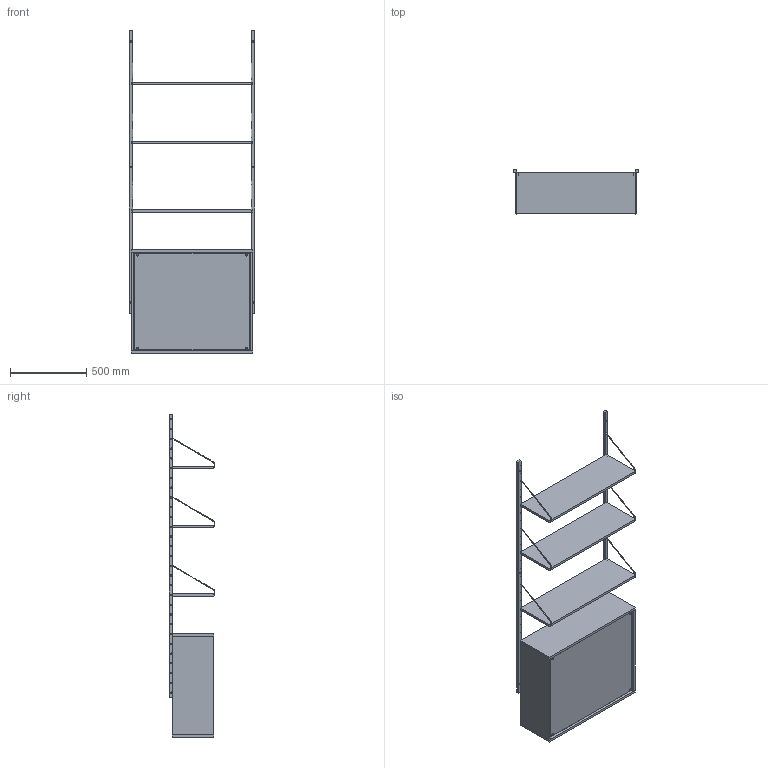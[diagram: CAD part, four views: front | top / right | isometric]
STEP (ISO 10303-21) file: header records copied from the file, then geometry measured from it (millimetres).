
FILE_DESCRIPTION(/* description */ (''),/* implementation_level */ '2;1');
FILE_NAME(/* name */ 'FRAMA_Shelf-Library-Wood-Canvas+3Shelves-3D',/* time_stamp */ '2025-11-03T10:05:11+01:00',/* author */ (''),/* organization */ (''),/* preprocessor_version */ 'ST-DEVELOPER v16.5',/* originating_system */ 'Rhino 7.38',/* authorisation */ '');
FILE_SCHEMA (('CONFIG_CONTROL_DESIGN'));
Length unit declared in the file: millimetre
Products named in the file (10): Document; Document1; Shelf Library Rails_1852 v1; Cabinet Top Panel v6; Cabinet 680_Back panel v5; Cabinet Bottom Panel v2; Cabinet Mount Hook v2; Welded hook extended v1; Canvas_V2 v8; curtain eyelet v3
Assembly tree (20 placements, depth 3):
  Document
    Document1
      Shelf Library Rails_1852 v1
    Cabinet Top Panel v6
    Cabinet 680_Back panel v5
    Cabinet Bottom Panel v2
    Cabinet Mount Hook v2  x4
    Welded hook extended v1  x2
    Canvas_V2 v8
      curtain eyelet v3  x8
Bounding box: 826 x 297.11 x 2115 mm (x, y, z)
Volume: 28999718.5 mm3; surface area: 5887270.6 mm2
Topology: 24 solids, 32 shells, 970 faces, 2190 edges, 1408 vertices
Faces by surface type: cylinder 498, plane 296, bspline 176
Entity records: 28120 total; most frequent: CARTESIAN_POINT 14305, ORIENTED_EDGE 3710, EDGE_CURVE 1857, VERTEX_POINT 1194, EDGE_LOOP 1125, ADVANCED_FACE 842, FACE_OUTER_BOUND 842, DIRECTION 802
